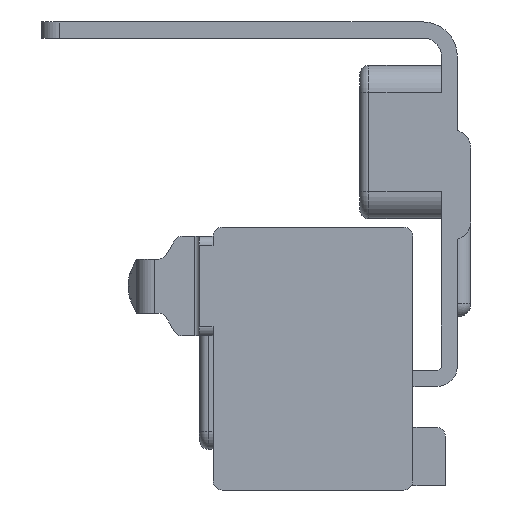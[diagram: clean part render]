
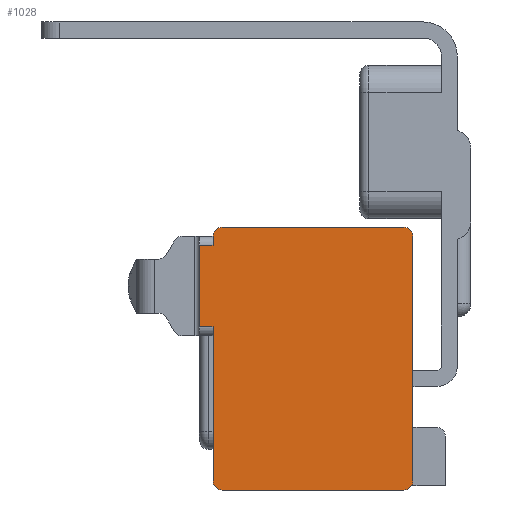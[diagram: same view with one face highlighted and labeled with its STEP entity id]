
A CAD part, left-side view. The second image highlights one B-rep face of the part: STEP entity #1028.
In plain terms, the highlighted planar face has unit normal (-1, 0, 0).
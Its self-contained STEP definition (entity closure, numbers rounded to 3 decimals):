
#44 = VECTOR ( 'NONE', #2549, 1000. ) ;
#70 = FACE_OUTER_BOUND ( 'NONE', #4915, .T. ) ;
#130 = DIRECTION ( 'NONE',  ( -1., 0., 0. ) ) ;
#189 = CARTESIAN_POINT ( 'NONE',  ( -183., 26., -10.43 ) ) ;
#200 = ORIENTED_EDGE ( 'NONE', *, *, #2869, .T. ) ;
#275 = CARTESIAN_POINT ( 'NONE',  ( -183., 28.5, 16.6 ) ) ;
#287 = ORIENTED_EDGE ( 'NONE', *, *, #6078, .T. ) ;
#299 = CIRCLE ( 'NONE', #4036, 1. ) ;
#401 = PLANE ( 'NONE',  #853 ) ;
#423 = CARTESIAN_POINT ( 'NONE',  ( -183., 28.5, 16.6 ) ) ;
#428 = LINE ( 'NONE', #5079, #4095 ) ;
#447 = DIRECTION ( 'NONE',  ( 1., 0., 0. ) ) ;
#452 = CARTESIAN_POINT ( 'NONE',  ( -183., 5.9, 17.6 ) ) ;
#530 = VERTEX_POINT ( 'NONE', #1516 ) ;
#700 = DIRECTION ( 'NONE',  ( 0., 1., 0. ) ) ;
#708 = LINE ( 'NONE', #3979, #4708 ) ;
#711 = DIRECTION ( 'NONE',  ( 0., 0., 1. ) ) ;
#758 = CARTESIAN_POINT ( 'NONE',  ( -183., 28.5, 15.6 ) ) ;
#773 = ORIENTED_EDGE ( 'NONE', *, *, #2105, .T. ) ;
#822 = CARTESIAN_POINT ( 'NONE',  ( -183., 28.5, 15.6 ) ) ;
#853 = AXIS2_PLACEMENT_3D ( 'NONE', #423, #447, #711 ) ;
#918 = VECTOR ( 'NONE', #4276, 1000. ) ;
#982 = CARTESIAN_POINT ( 'NONE',  ( -183., 4.9, 16.6 ) ) ;
#1028 = ADVANCED_FACE ( 'NONE', ( #70 ), #401, .F. ) ;
#1384 = EDGE_CURVE ( 'NONE', #3896, #1930, #3171, .T. ) ;
#1401 = CARTESIAN_POINT ( 'NONE',  ( -183., 28.5, 6.6 ) ) ;
#1514 = EDGE_CURVE ( 'NONE', #5507, #6055, #5456, .T. ) ;
#1516 = CARTESIAN_POINT ( 'NONE',  ( -183., 26., 17.6 ) ) ;
#1841 = LINE ( 'NONE', #275, #2736 ) ;
#1862 = EDGE_CURVE ( 'NONE', #530, #2390, #3335, .T. ) ;
#1896 = CARTESIAN_POINT ( 'NONE',  ( -183., 27., -10.43 ) ) ;
#1930 = VERTEX_POINT ( 'NONE', #452 ) ;
#2105 = EDGE_CURVE ( 'NONE', #4038, #5033, #5457, .T. ) ;
#2170 = VECTOR ( 'NONE', #700, 1000. ) ;
#2330 = EDGE_CURVE ( 'NONE', #3164, #5022, #299, .T. ) ;
#2390 = VERTEX_POINT ( 'NONE', #6565 ) ;
#2472 = VECTOR ( 'NONE', #4998, 1000. ) ;
#2539 = AXIS2_PLACEMENT_3D ( 'NONE', #4059, #3931, #3917 ) ;
#2545 = LINE ( 'NONE', #2932, #5177 ) ;
#2549 = DIRECTION ( 'NONE',  ( 0., 0., 1. ) ) ;
#2736 = VECTOR ( 'NONE', #4461, 1000. ) ;
#2848 = ORIENTED_EDGE ( 'NONE', *, *, #3921, .T. ) ;
#2869 = EDGE_CURVE ( 'NONE', #6121, #4627, #5276, .T. ) ;
#2932 = CARTESIAN_POINT ( 'NONE',  ( -183., 27., -10.43 ) ) ;
#3164 = VERTEX_POINT ( 'NONE', #4130 ) ;
#3165 = CARTESIAN_POINT ( 'NONE',  ( -183., 27., 15.6 ) ) ;
#3171 = CIRCLE ( 'NONE', #3191, 1. ) ;
#3191 = AXIS2_PLACEMENT_3D ( 'NONE', #6367, #6350, #6089 ) ;
#3335 = CIRCLE ( 'NONE', #2539, 1. ) ;
#3422 = ORIENTED_EDGE ( 'NONE', *, *, #2330, .T. ) ;
#3693 = CARTESIAN_POINT ( 'NONE',  ( -183., 27., 6.6 ) ) ;
#3718 = LINE ( 'NONE', #3762, #918 ) ;
#3762 = CARTESIAN_POINT ( 'NONE',  ( -183., 5.9, 17.6 ) ) ;
#3896 = VERTEX_POINT ( 'NONE', #5553 ) ;
#3917 = DIRECTION ( 'NONE',  ( 0., 1., 0. ) ) ;
#3921 = EDGE_CURVE ( 'NONE', #5033, #3164, #428, .T. ) ;
#3931 = DIRECTION ( 'NONE',  ( -1., 0., 0. ) ) ;
#3979 = CARTESIAN_POINT ( 'NONE',  ( -183., 27., -10.43 ) ) ;
#3990 = ORIENTED_EDGE ( 'NONE', *, *, #5452, .T. ) ;
#4036 = AXIS2_PLACEMENT_3D ( 'NONE', #4593, #4570, #4551 ) ;
#4038 = VERTEX_POINT ( 'NONE', #1896 ) ;
#4059 = CARTESIAN_POINT ( 'NONE',  ( -183., 26., 16.6 ) ) ;
#4095 = VECTOR ( 'NONE', #5167, 1000. ) ;
#4130 = CARTESIAN_POINT ( 'NONE',  ( -183., 5.9, -11.43 ) ) ;
#4276 = DIRECTION ( 'NONE',  ( 0., 1., 0. ) ) ;
#4461 = DIRECTION ( 'NONE',  ( 0., 0., -1. ) ) ;
#4530 = LINE ( 'NONE', #982, #44 ) ;
#4551 = DIRECTION ( 'NONE',  ( 0., 1., 0. ) ) ;
#4570 = DIRECTION ( 'NONE',  ( -1., 0., 0. ) ) ;
#4593 = CARTESIAN_POINT ( 'NONE',  ( -183., 5.9, -10.43 ) ) ;
#4627 = VERTEX_POINT ( 'NONE', #3693 ) ;
#4642 = ORIENTED_EDGE ( 'NONE', *, *, #1384, .T. ) ;
#4708 = VECTOR ( 'NONE', #6528, 1000. ) ;
#4884 = AXIS2_PLACEMENT_3D ( 'NONE', #189, #130, #5895 ) ;
#4915 = EDGE_LOOP ( 'NONE', ( #2848, #3422, #3990, #4642, #5064, #5705, #5870, #6240, #6559, #200, #287, #773 ) ) ;
#4939 = EDGE_CURVE ( 'NONE', #2390, #5507, #708, .T. ) ;
#4998 = DIRECTION ( 'NONE',  ( 0., -1., 0. ) ) ;
#5022 = VERTEX_POINT ( 'NONE', #5218 ) ;
#5033 = VERTEX_POINT ( 'NONE', #6247 ) ;
#5064 = ORIENTED_EDGE ( 'NONE', *, *, #5795, .T. ) ;
#5079 = CARTESIAN_POINT ( 'NONE',  ( -183., 5.9, -11.43 ) ) ;
#5167 = DIRECTION ( 'NONE',  ( 0., -1., 0. ) ) ;
#5177 = VECTOR ( 'NONE', #6011, 1000. ) ;
#5218 = CARTESIAN_POINT ( 'NONE',  ( -183., 4.9, -10.43 ) ) ;
#5239 = EDGE_CURVE ( 'NONE', #6055, #6121, #1841, .T. ) ;
#5276 = LINE ( 'NONE', #6015, #2472 ) ;
#5452 = EDGE_CURVE ( 'NONE', #5022, #3896, #4530, .T. ) ;
#5456 = LINE ( 'NONE', #758, #2170 ) ;
#5457 = CIRCLE ( 'NONE', #4884, 1. ) ;
#5507 = VERTEX_POINT ( 'NONE', #3165 ) ;
#5553 = CARTESIAN_POINT ( 'NONE',  ( -183., 4.9, 16.6 ) ) ;
#5705 = ORIENTED_EDGE ( 'NONE', *, *, #1862, .T. ) ;
#5795 = EDGE_CURVE ( 'NONE', #1930, #530, #3718, .T. ) ;
#5870 = ORIENTED_EDGE ( 'NONE', *, *, #4939, .T. ) ;
#5895 = DIRECTION ( 'NONE',  ( 0., 1., 0. ) ) ;
#6011 = DIRECTION ( 'NONE',  ( 0., 0., -1. ) ) ;
#6015 = CARTESIAN_POINT ( 'NONE',  ( -183., 28.5, 6.6 ) ) ;
#6055 = VERTEX_POINT ( 'NONE', #822 ) ;
#6078 = EDGE_CURVE ( 'NONE', #4627, #4038, #2545, .T. ) ;
#6089 = DIRECTION ( 'NONE',  ( 0., 1., 0. ) ) ;
#6121 = VERTEX_POINT ( 'NONE', #1401 ) ;
#6240 = ORIENTED_EDGE ( 'NONE', *, *, #1514, .T. ) ;
#6247 = CARTESIAN_POINT ( 'NONE',  ( -183., 26., -11.43 ) ) ;
#6350 = DIRECTION ( 'NONE',  ( -1., 0., 0. ) ) ;
#6367 = CARTESIAN_POINT ( 'NONE',  ( -183., 5.9, 16.6 ) ) ;
#6528 = DIRECTION ( 'NONE',  ( 0., 0., -1. ) ) ;
#6559 = ORIENTED_EDGE ( 'NONE', *, *, #5239, .T. ) ;
#6565 = CARTESIAN_POINT ( 'NONE',  ( -183., 27., 16.6 ) ) ;
